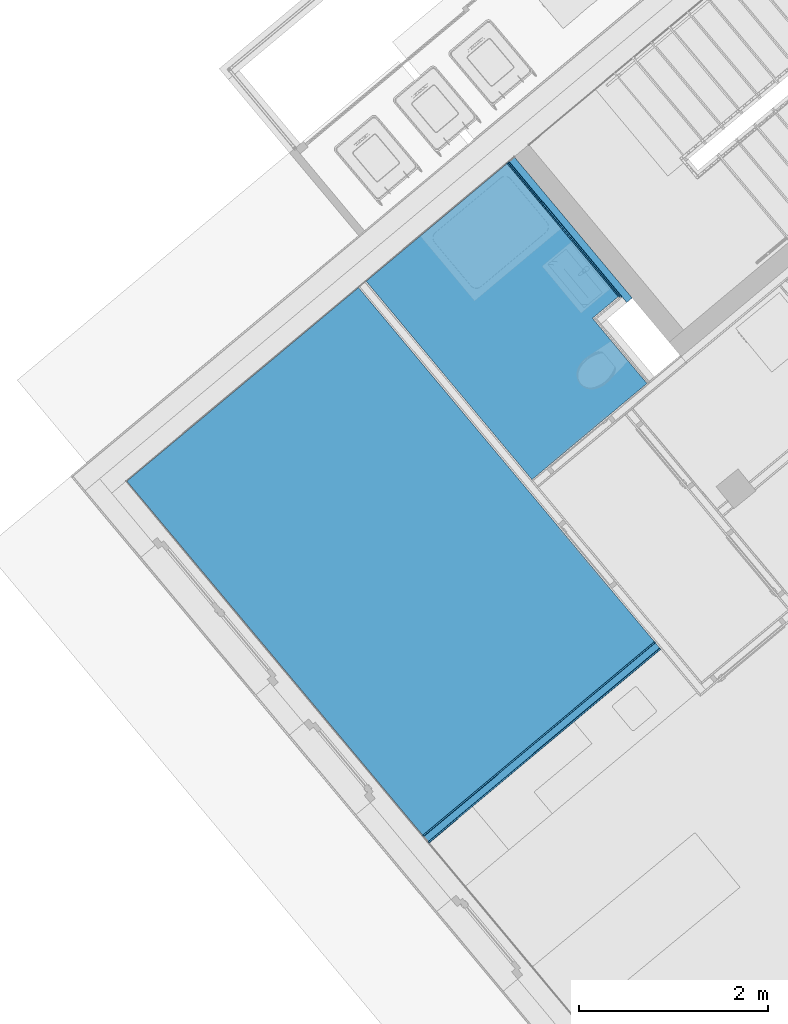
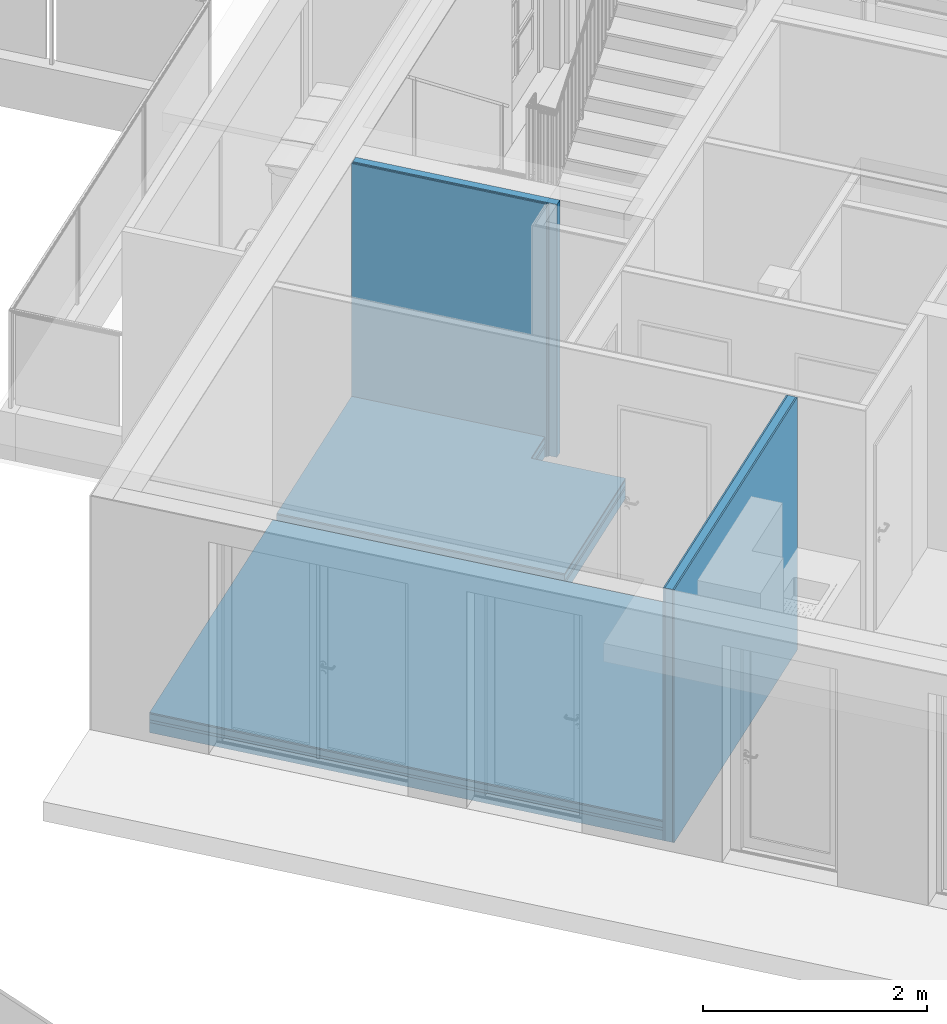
# One storey, part 28 of 75: 14 building element parts, 4 elements without a shape of their own.
"""IFC4 building model written with IfcOpenShell, lengths in metres."""

from ifc_helpers import new_model, entity, si_unit, converted_unit, derived_unit, direction, frame, origin_with_axes, place, context, subcontext, project, spatial, polygons, material, type_object, element, aggregate, save


model = new_model("IFC4")

# Units and contexts
model_context = context("Model", 3, precision=1e-05, world=origin_with_axes(), true_north=direction((0.0, 1.0)))
body_context = subcontext(model_context, "Body", "Model", "MODEL_VIEW")
ifc_project = project(units=[si_unit("LENGTHUNIT", "METRE"), si_unit("AREAUNIT", "SQUARE_METRE"), si_unit("VOLUMEUNIT", "CUBIC_METRE"), converted_unit("PLANEANGLEUNIT", "DEGREE", entity("IfcPlaneAngleMeasure", 0.0174532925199), si_unit("PLANEANGLEUNIT", "RADIAN"), dimensions=[0, 0, 0, 0, 0, 0, 0]), converted_unit("TIMEUNIT", "Year", entity("IfcTimeMeasure", 31556926.0), si_unit("TIMEUNIT", "SECOND"), dimensions=[0, 0, 1, 0, 0, 0, 0]), si_unit("MASSUNIT", "GRAM", prefix="KILO"), si_unit("THERMODYNAMICTEMPERATUREUNIT", "DEGREE_CELSIUS"), si_unit("LUMINOUSINTENSITYUNIT", "LUMEN"), si_unit("ENERGYUNIT", "JOULE", prefix="MEGA"), derived_unit("THERMALCONDUCTANCEUNIT", [(si_unit("POWERUNIT", "WATT"), 1), (si_unit("LENGTHUNIT", "METRE"), -1), (si_unit("THERMODYNAMICTEMPERATUREUNIT", "KELVIN"), -1)]), derived_unit("SPECIFICHEATCAPACITYUNIT", [(si_unit("ENERGYUNIT", "JOULE"), 1), (si_unit("MASSUNIT", "GRAM", prefix="KILO"), -1), (si_unit("THERMODYNAMICTEMPERATUREUNIT", "KELVIN"), -1)]), derived_unit("MASSDENSITYUNIT", [(si_unit("MASSUNIT", "GRAM", prefix="KILO"), 1), (si_unit("VOLUMEUNIT", "CUBIC_METRE"), -1)])], contexts=[model_context])

# Site, building, storey
site_placement = place(None, frame((-0.00153261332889, -0.00661245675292, 0.0), z_axis=(0.0, 0.0, 1.0), x_axis=(1.0, 0.0, 0.0)))
site = spatial("IfcSite", under=ifc_project, at=site_placement, Name="Gelände", CompositionType="ELEMENT")
building_placement = place(site_placement, origin_with_axes())
building = spatial("IfcBuilding", under=site, at=building_placement, Name="Gebäude", CompositionType="ELEMENT")
storey_placement = place(building_placement, frame((0.0, 0.0, -0.22), z_axis=(0.0, 0.0, 1.0), x_axis=(1.0, 0.0, 0.0)))
storey = spatial("IfcBuildingStorey", under=building, at=storey_placement, Name="EG", CompositionType="ELEMENT", Elevation=-0.22)

# Wall, building element parts
wall_type_1 = type_object("IfcWallType", Name="LB 10,5 cm doppelte Vorsatzschale Bad 105", PredefinedType="NOTDEFINED")
wall_1_placement = place(storey_placement, frame((-4.2513787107, 22.721445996, 0.0), z_axis=(0.0, 0.0, 1.0), x_axis=(0.641209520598, -0.767365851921, 0.0)))
wall_1 = element("IfcWall", 1, at=wall_1_placement, inside=storey, type_object=wall_type_1, Name="Wand-004", PredefinedType="NOTDEFINED")
ifc_material_1 = material(Name="Mineralwolle weich")
building_element_part_1_placement = place(wall_1_placement, origin_with_axes())
building_element_part_1 = element("IfcBuildingElementPart", 2, at=building_element_part_1_placement, material=ifc_material_1, Name="Mineralwolle weich", PredefinedType="NOTDEFINED", context=body_context, shape_type="Tessellation", body=[
    polygons([(0.419999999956, 0.0, 2.76), (2.3649897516, 0.0, 2.76), (2.3649897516, 0.0, 0.0), (0.419999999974, 0.0, 0.0), (2.3649897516, -0.075, 2.76), (0.419999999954, -0.075, 2.76), (2.3649897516, -0.075, 0.0), (0.419999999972, -0.075, 0.0)], [[[1, 2, 3, 4]], [[5, 2, 1, 6]], [[2, 5, 7, 3]], [[7, 8, 4, 3]], [[6, 1, 4, 8]], [[5, 6, 8, 7]]], closed=True),
])
ifc_material_2 = material(Name="Gipskarton")
building_element_part_2_placement = place(wall_1_placement, origin_with_axes())
building_element_part_2 = element("IfcBuildingElementPart", 3, at=building_element_part_2_placement, material=ifc_material_2, Name="Gipskarton", PredefinedType="NOTDEFINED", context=body_context, shape_type="Tessellation", body=[
    polygons([(0.419999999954, -0.075, 2.76), (2.2899897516, -0.075, 2.76), (2.2899897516, -0.075, 0.0), (0.419999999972, -0.075, 0.0), (2.2899897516, -0.09, 2.76), (0.419999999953, -0.09, 2.76), (2.2899897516, -0.09, 0.0), (0.419999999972, -0.09, 0.0)], [[[1, 2, 3, 4]], [[5, 2, 1, 6]], [[2, 5, 7, 3]], [[7, 8, 4, 3]], [[6, 1, 4, 8]], [[5, 6, 8, 7]]], closed=True),
])
building_element_part_3_placement = place(wall_1_placement, origin_with_axes())
building_element_part_3 = element("IfcBuildingElementPart", 4, at=building_element_part_3_placement, material=ifc_material_2, Name="Gipskarton", PredefinedType="NOTDEFINED", context=body_context, shape_type="Tessellation", body=[
    polygons([(0.419999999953, -0.09, 2.76), (2.2749897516, -0.09, 2.76), (2.2749897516, -0.09, 0.0), (0.419999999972, -0.09, 0.0), (2.27498975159, -0.105, 2.76), (0.419999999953, -0.105, 2.76), (2.27498975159, -0.105, 0.0), (0.419999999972, -0.105, 0.0)], [[[1, 2, 3, 4]], [[5, 2, 1, 6]], [[2, 5, 7, 3]], [[7, 8, 4, 3]], [[6, 1, 4, 8]], [[5, 6, 8, 7]]], closed=True),
])
aggregate(wall_1, [building_element_part_1, building_element_part_2, building_element_part_3])

wall_type_2 = type_object("IfcWallType", Name="IW LB 01 Leichtbautrennwand einfach 10,5 cm 105", PredefinedType="NOTDEFINED")
wall_2_placement = place(storey_placement, frame((-2.49988703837, 17.264591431, 0.0), z_axis=(0.0, 0.0, 1.0), x_axis=(-0.767365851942, -0.641209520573, 0.0)))
wall_2 = element("IfcWall", 5, at=wall_2_placement, inside=storey, type_object=wall_type_2, Name="Wand-012", PredefinedType="NOTDEFINED")
building_element_part_4_placement = place(wall_2_placement, origin_with_axes())
building_element_part_4 = element("IfcBuildingElementPart", 6, at=building_element_part_4_placement, material=ifc_material_2, Name="Gipskarton", PredefinedType="NOTDEFINED", context=body_context, shape_type="Tessellation", body=[
    polygons([(0.0, 0.09, 2.76), (0.0, 0.105, 2.76), (0.0, 0.105, 0.0), (0.0, 0.09, 0.0), (3.20025354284, 0.105, 2.76), (3.20025354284, 0.09, 2.76), (3.20025354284, 0.105, 0.0), (3.20025354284, 0.09, 0.0)], [[[1, 2, 3, 4]], [[5, 2, 1, 6]], [[2, 5, 7, 3]], [[3, 7, 8, 4]], [[6, 1, 4, 8]], [[5, 6, 8, 7]]], closed=True),
])
building_element_part_5_placement = place(wall_2_placement, origin_with_axes())
building_element_part_5 = element("IfcBuildingElementPart", 7, at=building_element_part_5_placement, material=ifc_material_1, Name="Mineralwolle weich", PredefinedType="NOTDEFINED", context=body_context, shape_type="Tessellation", body=[
    polygons([(0.0, 0.015, 2.76), (0.0, 0.09, 2.76), (0.0, 0.09, 0.0), (0.0, 0.015, 0.0), (3.20025354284, 0.09, 2.76), (3.20025354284, 0.015, 2.76), (3.20025354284, 0.09, 0.0), (3.20025354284, 0.015, 0.0)], [[[1, 2, 3, 4]], [[5, 2, 1, 6]], [[2, 5, 7, 3]], [[3, 7, 8, 4]], [[6, 1, 4, 8]], [[5, 6, 8, 7]]], closed=True),
])
building_element_part_6_placement = place(wall_2_placement, origin_with_axes())
building_element_part_6 = element("IfcBuildingElementPart", 8, at=building_element_part_6_placement, material=ifc_material_2, Name="Gipskarton", PredefinedType="NOTDEFINED", context=body_context, shape_type="Tessellation", body=[
    polygons([(0.0, 0.0, 2.76), (0.0, 0.015, 2.76), (0.0, 0.015, 0.0), (0.0, 0.0, 0.0), (3.20025354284, 0.015, 2.76), (3.20025354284, 0.0, 2.76), (3.20025354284, 0.015, 0.0), (3.20025354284, 0.0, 0.0)], [[[1, 2, 3, 4]], [[5, 2, 1, 6]], [[2, 5, 7, 3]], [[3, 7, 8, 4]], [[6, 1, 4, 8]], [[5, 6, 8, 7]]], closed=True),
])
aggregate(wall_2, [building_element_part_4, building_element_part_5, building_element_part_6])

# Covering, building element parts
covering_type_1 = type_object("IfcCoveringType", Name="DE 01 Decke Wohnung/Wohnung Parkett 220", PredefinedType="NOTDEFINED")
covering_1_placement = place(storey_placement, frame((-8.09147272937, 18.965343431, 0.22), z_axis=(0.0, 0.0, 1.0), x_axis=(1.0, 0.0, 0.0)))
covering_1 = element("IfcCovering", 9, at=covering_1_placement, inside=storey, type_object=covering_type_1, Name="Decke-009", PredefinedType="NOTDEFINED")
ifc_material_3 = material(Name="Parkett")
building_element_part_7_placement = place(covering_1_placement, origin_with_axes())
building_element_part_7 = element("IfcBuildingElementPart", 10, at=building_element_part_7_placement, material=ifc_material_3, Name="Parkett", PredefinedType="NOTDEFINED", context=body_context, shape_type="Tessellation", body=[
    polygons([(0.0, 0.0, -0.015), (3.13582040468, -3.75278504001, -0.015), (3.13582040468, -3.75278504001, 0.0), (0.0, 0.0, 0.0), (2.45576528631, 2.05203303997, -0.015), (5.591585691, -1.70075200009, -0.015), (5.591585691, -1.70075200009, 0.0), (2.45576528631, 2.05203303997, 0.0)], [[[1, 2, 3, 4]], [[2, 1, 5, 6]], [[2, 6, 7, 3]], [[8, 4, 3, 7]], [[5, 1, 4, 8]], [[6, 5, 8, 7]]], closed=True),
])
ifc_material_4 = material(Name="Estrich")
building_element_part_8_placement = place(covering_1_placement, origin_with_axes())
building_element_part_8 = element("IfcBuildingElementPart", 11, at=building_element_part_8_placement, material=ifc_material_4, Name="Estrich", PredefinedType="NOTDEFINED", context=body_context, shape_type="Tessellation", body=[
    polygons([(0.0, 0.0, -0.08), (3.13582040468, -3.75278504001, -0.08), (3.13582040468, -3.75278504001, -0.015), (0.0, 0.0, -0.015), (2.45576528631, 2.05203303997, -0.08), (5.591585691, -1.70075200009, -0.08), (5.591585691, -1.70075200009, -0.015), (2.45576528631, 2.05203303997, -0.015)], [[[1, 2, 3, 4]], [[2, 1, 5, 6]], [[2, 6, 7, 3]], [[8, 4, 3, 7]], [[5, 1, 4, 8]], [[6, 5, 8, 7]]], closed=True),
])
ifc_material_5 = material(Name="Trittschalldämmung")
building_element_part_9_placement = place(covering_1_placement, origin_with_axes())
building_element_part_9 = element("IfcBuildingElementPart", 12, at=building_element_part_9_placement, material=ifc_material_5, Name="Trittschalldämmung", PredefinedType="NOTDEFINED", context=body_context, shape_type="Tessellation", body=[
    polygons([(0.0, 0.0, -0.11), (3.13582040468, -3.75278504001, -0.11), (3.13582040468, -3.75278504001, -0.08), (0.0, 0.0, -0.08), (2.45576528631, 2.05203303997, -0.11), (5.591585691, -1.70075200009, -0.11), (5.591585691, -1.70075200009, -0.08), (2.45576528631, 2.05203303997, -0.08)], [[[1, 2, 3, 4]], [[2, 1, 5, 6]], [[2, 6, 7, 3]], [[8, 4, 3, 7]], [[5, 1, 4, 8]], [[6, 5, 8, 7]]], closed=True),
])
ifc_material_6 = material(Name="Schüttung")
building_element_part_10_placement = place(covering_1_placement, origin_with_axes())
building_element_part_10 = element("IfcBuildingElementPart", 13, at=building_element_part_10_placement, material=ifc_material_6, Name="Schüttung", PredefinedType="NOTDEFINED", context=body_context, shape_type="Tessellation", body=[
    polygons([(0.0, 0.0, -0.11), (0.0, 0.0, -0.22), (3.13582040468, -3.75278504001, -0.22), (3.13582040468, -3.75278504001, -0.11), (2.45576528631, 2.05203303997, -0.11), (2.45576528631, 2.05203303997, -0.22), (5.591585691, -1.70075200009, -0.22), (5.591585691, -1.70075200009, -0.11)], [[[1, 2, 3, 4]], [[5, 6, 2, 1]], [[3, 2, 6, 7]], [[4, 3, 7, 8]], [[5, 1, 4, 8]], [[8, 7, 6, 5]]], closed=True),
])
aggregate(covering_1, [building_element_part_7, building_element_part_8, building_element_part_9, building_element_part_10])

covering_type_2 = type_object("IfcCoveringType", Name="DE 01 Decke Wohnung/Wohnung Fließen 220", PredefinedType="NOTDEFINED")
covering_2_placement = place(storey_placement, frame((-2.57820884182, 20.0007926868, 0.22), z_axis=(0.0, 0.0, 1.0), x_axis=(1.0, 0.0, 0.0)))
covering_2 = element("IfcCovering", 14, at=covering_2_placement, inside=storey, type_object=covering_type_2, Name="Decke-004", PredefinedType="NOTDEFINED")
ifc_material_7 = material(Name="Fliesen")
building_element_part_11_placement = place(covering_2_placement, origin_with_axes())
building_element_part_11 = element("IfcBuildingElementPart", 15, at=building_element_part_11_placement, material=ifc_material_7, Name="Fliesen", PredefinedType="NOTDEFINED", context=body_context, shape_type="Tessellation", body=[
    polygons([(-0.577472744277, 0.691089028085, -0.015), (-0.577472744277, 0.691089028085, 0.0), (0.0, 0.0, 0.0), (0.0, 0.0, -0.015), (-0.304616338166, 0.919087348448, -0.015), (-0.304616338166, 0.919087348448, 0.0), (-1.48443528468, 2.33103265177, 0.0), (-2.97692518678, 1.08391078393, 0.0), (-1.21915101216, -1.0197009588, 0.0), (-1.21915101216, -1.0197009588, -0.015), (-2.97692518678, 1.08391078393, -0.015), (-1.48443528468, 2.33103265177, -0.015)], [[[1, 2, 3, 4]], [[5, 6, 2, 1]], [[3, 2, 6, 7, 8, 9]], [[4, 3, 9, 10]], [[4, 10, 11, 12, 5, 1]], [[12, 7, 6, 5]], [[11, 8, 7, 12]], [[10, 9, 8, 11]]], closed=True),
])
building_element_part_12_placement = place(covering_2_placement, origin_with_axes())
building_element_part_12 = element("IfcBuildingElementPart", 16, at=building_element_part_12_placement, material=ifc_material_4, Name="Estrich", PredefinedType="NOTDEFINED", context=body_context, shape_type="Tessellation", body=[
    polygons([(-0.577472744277, 0.691089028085, -0.08), (-0.577472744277, 0.691089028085, -0.015), (0.0, 0.0, -0.015), (0.0, 0.0, -0.08), (-0.304616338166, 0.919087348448, -0.08), (-0.304616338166, 0.919087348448, -0.015), (-1.48443528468, 2.33103265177, -0.015), (-2.97692518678, 1.08391078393, -0.015), (-1.21915101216, -1.0197009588, -0.015), (-1.21915101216, -1.0197009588, -0.08), (-2.97692518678, 1.08391078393, -0.08), (-1.48443528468, 2.33103265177, -0.08)], [[[1, 2, 3, 4]], [[5, 6, 2, 1]], [[3, 2, 6, 7, 8, 9]], [[4, 3, 9, 10]], [[4, 10, 11, 12, 5, 1]], [[12, 7, 6, 5]], [[11, 8, 7, 12]], [[10, 9, 8, 11]]], closed=True),
])
building_element_part_13_placement = place(covering_2_placement, origin_with_axes())
building_element_part_13 = element("IfcBuildingElementPart", 17, at=building_element_part_13_placement, material=ifc_material_5, Name="Trittschalldämmung", PredefinedType="NOTDEFINED", context=body_context, shape_type="Tessellation", body=[
    polygons([(-0.577472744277, 0.691089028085, -0.11), (-0.577472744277, 0.691089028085, -0.08), (0.0, 0.0, -0.08), (0.0, 0.0, -0.11), (-0.304616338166, 0.919087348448, -0.11), (-0.304616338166, 0.919087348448, -0.08), (-1.48443528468, 2.33103265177, -0.08), (-2.97692518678, 1.08391078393, -0.08), (-1.21915101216, -1.0197009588, -0.08), (-1.21915101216, -1.0197009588, -0.11), (-2.97692518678, 1.08391078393, -0.11), (-1.48443528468, 2.33103265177, -0.11)], [[[1, 2, 3, 4]], [[5, 6, 2, 1]], [[3, 2, 6, 7, 8, 9]], [[4, 3, 9, 10]], [[4, 10, 11, 12, 5, 1]], [[12, 7, 6, 5]], [[11, 8, 7, 12]], [[10, 9, 8, 11]]], closed=True),
])
building_element_part_14_placement = place(covering_2_placement, origin_with_axes())
building_element_part_14 = element("IfcBuildingElementPart", 18, at=building_element_part_14_placement, material=ifc_material_6, Name="Schüttung", PredefinedType="NOTDEFINED", context=body_context, shape_type="Tessellation", body=[
    polygons([(0.0, 0.0, -0.22), (-0.577472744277, 0.691089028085, -0.22), (-0.577472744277, 0.691089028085, -0.11), (0.0, 0.0, -0.11), (-1.21915101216, -1.0197009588, -0.22), (-2.97692518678, 1.08391078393, -0.22), (-1.48443528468, 2.33103265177, -0.22), (-0.304616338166, 0.919087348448, -0.22), (-0.304616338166, 0.919087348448, -0.11), (-1.48443528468, 2.33103265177, -0.11), (-2.97692518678, 1.08391078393, -0.11), (-1.21915101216, -1.0197009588, -0.11)], [[[1, 2, 3, 4]], [[1, 5, 6, 7, 8, 2]], [[2, 8, 9, 3]], [[4, 3, 9, 10, 11, 12]], [[5, 1, 4, 12]], [[6, 5, 12, 11]], [[7, 6, 11, 10]], [[8, 7, 10, 9]]], closed=True),
])
aggregate(covering_2, [building_element_part_11, building_element_part_12, building_element_part_13, building_element_part_14])

save(model, "model.ifc")
